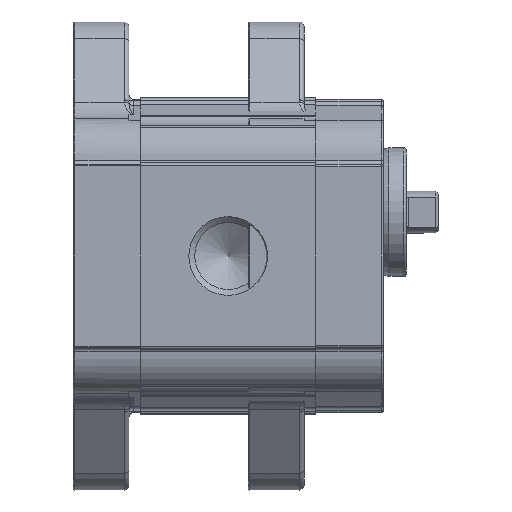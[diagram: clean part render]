
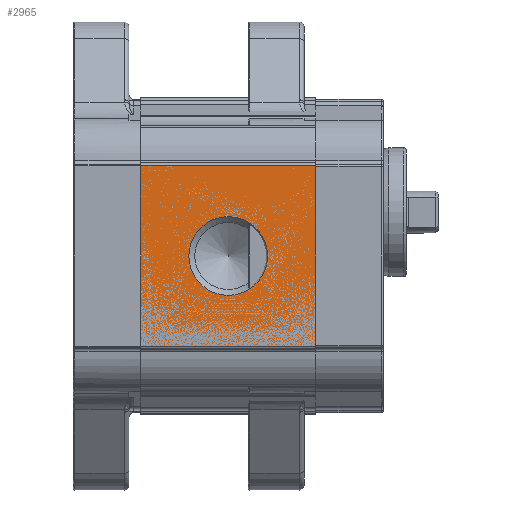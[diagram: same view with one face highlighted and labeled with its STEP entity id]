
A CAD part, left-side view. The second image highlights one B-rep face of the part: STEP entity #2965.
In plain terms, the highlighted planar face has unit normal (-1, 0, 0) as drawn and (1, 0, 0) by its records, which use the part's own axes.
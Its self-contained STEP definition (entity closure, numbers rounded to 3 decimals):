
#2965 = ADVANCED_FACE( '', ( #6120, #6121 ), #6122, .T. );
#6120 = FACE_BOUND( '', #11135, .T. );
#6121 = FACE_OUTER_BOUND( '', #11136, .T. );
#6122 = PLANE( '', #11137 );
#11135 = EDGE_LOOP( '', ( #19700 ) );
#11136 = EDGE_LOOP( '', ( #19701, #19702, #19703, #19704 ) );
#11137 = AXIS2_PLACEMENT_3D( '', #19705, #19706, #19707 );
#19700 = ORIENTED_EDGE( '', *, *, #23424, .T. );
#19701 = ORIENTED_EDGE( '', *, *, #22490, .F. );
#19702 = ORIENTED_EDGE( '', *, *, #22252, .F. );
#19703 = ORIENTED_EDGE( '', *, *, #20206, .T. );
#19704 = ORIENTED_EDGE( '', *, *, #20256, .T. );
#19705 = CARTESIAN_POINT( '', ( 25., 29.9, -15.418 ) );
#19706 = DIRECTION( '', ( 1., 0., 0. ) );
#19707 = DIRECTION( '', ( 0., 0., -1. ) );
#20206 = EDGE_CURVE( '', #23895, #23893, #23896, .T. );
#20256 = EDGE_CURVE( '', #23893, #23987, #23990, .T. );
#22252 = EDGE_CURVE( '', #23895, #27094, #27096, .T. );
#22490 = EDGE_CURVE( '', #27094, #23987, #27419, .T. );
#23424 = EDGE_CURVE( '', #28440, #28440, #28441, .F. );
#23893 = VERTEX_POINT( '', #29207 );
#23895 = VERTEX_POINT( '', #29209 );
#23896 = LINE( '', #29210, #29211 );
#23987 = VERTEX_POINT( '', #29342 );
#23990 = LINE( '', #29345, #29346 );
#27094 = VERTEX_POINT( '', #35356 );
#27096 = LINE( '', #35358, #35359 );
#27419 = LINE( '', #35979, #35980 );
#28440 = VERTEX_POINT( '', #38065 );
#28441 = CIRCLE( '', #38066, 6.723 );
#29207 = CARTESIAN_POINT( '', ( 25., 29.9, 15.418 ) );
#29209 = CARTESIAN_POINT( '', ( 25., 29.9, -15.418 ) );
#29210 = CARTESIAN_POINT( '', ( 25., 29.9, -15.418 ) );
#29211 = VECTOR( '', #38455, 1000. );
#29342 = CARTESIAN_POINT( '', ( 25., 0., 15.418 ) );
#29345 = CARTESIAN_POINT( '', ( 25., 29.9, 15.418 ) );
#29346 = VECTOR( '', #38556, 1000. );
#35356 = CARTESIAN_POINT( '', ( 25., 0., -15.418 ) );
#35358 = CARTESIAN_POINT( '', ( 25., 29.9, -15.418 ) );
#35359 = VECTOR( '', #41205, 1000. );
#35979 = CARTESIAN_POINT( '', ( 25., 0., -15.418 ) );
#35980 = VECTOR( '', #41564, 1000. );
#38065 = CARTESIAN_POINT( '', ( 25., 14.95, -6.722 ) );
#38066 = AXIS2_PLACEMENT_3D( '', #42285, #42286, #42287 );
#38455 = DIRECTION( '', ( 0., 0., 1. ) );
#38556 = DIRECTION( '', ( 0., -1., 0. ) );
#41205 = DIRECTION( '', ( 0., -1., 0. ) );
#41564 = DIRECTION( '', ( 0., 0., 1. ) );
#42285 = CARTESIAN_POINT( '', ( 25., 14.95, 0. ) );
#42286 = DIRECTION( '', ( 1., 0., 0. ) );
#42287 = DIRECTION( '', ( 0., 0., -1. ) );
